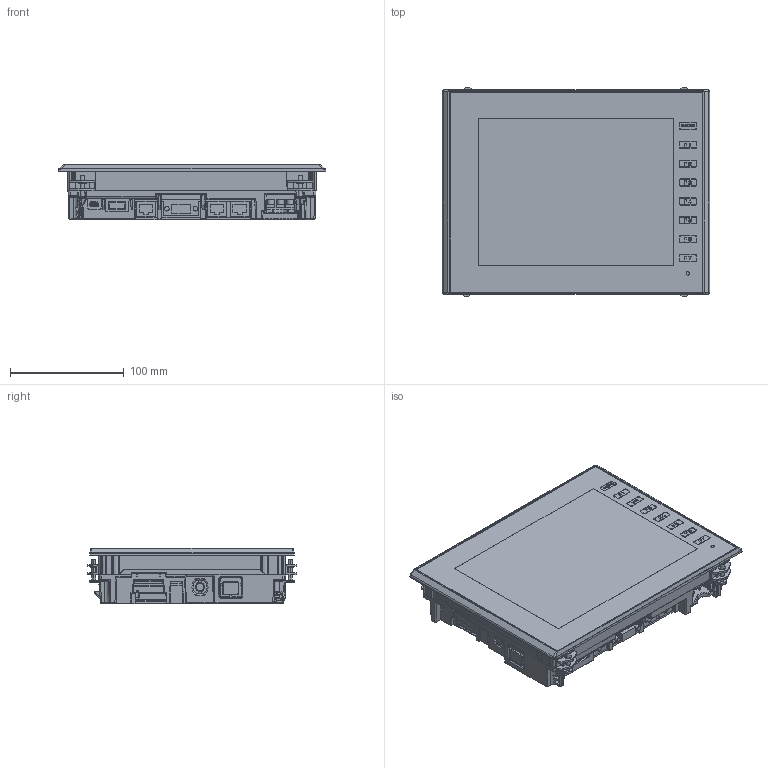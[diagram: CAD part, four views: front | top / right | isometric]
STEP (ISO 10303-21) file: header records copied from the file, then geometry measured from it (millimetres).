
FILE_DESCRIPTION((''),'2;1');
FILE_NAME('V9080ICD_3D-DATA','2014-05-09T',('ichinose'),('Hakko Electronics Co.,Ltd.'),'PRO/ENGINEER BY PARAMETRIC TECHNOLOGY CORPORATION, 2007390','PRO/ENGINEER BY PARAMETRIC TECHNOLOGY CORPORATION, 2007390','');
FILE_SCHEMA(('CONFIG_CONTROL_DESIGN'));
Products named in the file (1): V9080ICD_3D-DATA
Bounding box: 235 x 183.7 x 48.9 mm (x, y, z)
Volume: 1686567.7 mm3; surface area: 137488.6 mm2
Topology: 1 solids, 1 shells, 3446 faces, 9553 edges, 6214 vertices
Faces by surface type: plane 2720, cylinder 464, bspline 111, cone 52, sphere 51, torus 39, extrusion 9
Entity records: 121415 total; most frequent: CARTESIAN_POINT 34654, ORIENTED_EDGE 19106, DIRECTION 16137, EDGE_CURVE 9553, VECTOR 8099, LINE 8090, VERTEX_POINT 6214, AXIS2_PLACEMENT_3D 4019
